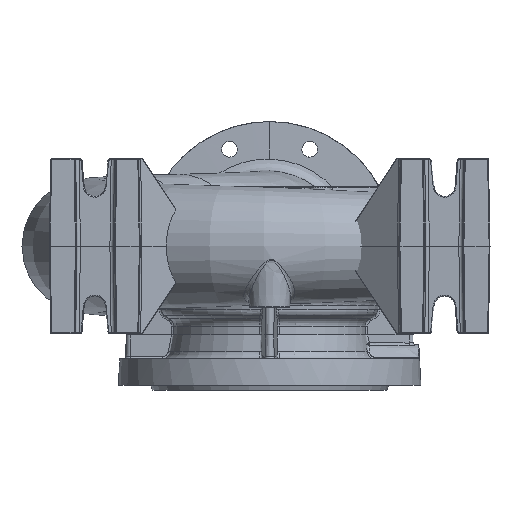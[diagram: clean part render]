
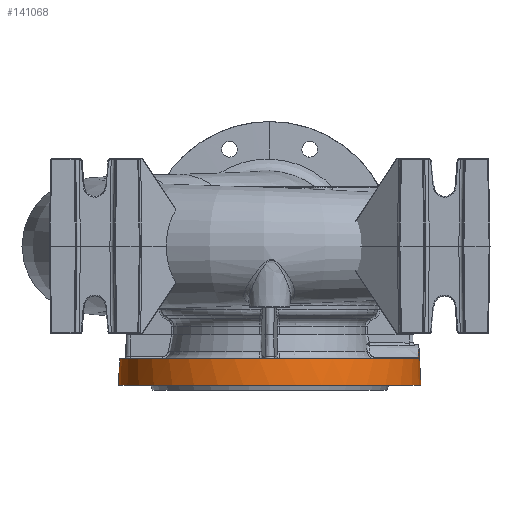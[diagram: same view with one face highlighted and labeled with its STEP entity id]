
A CAD part, front view. The second image highlights one B-rep face of the part: STEP entity #141068.
In plain terms, the highlighted conical face has half-angle 3 degrees and reference radius 173 mm.
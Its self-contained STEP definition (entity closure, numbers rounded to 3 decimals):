
#2172 = DIRECTION ( 'NONE',  ( -1., 0., 0. ) ) ;
#7685 = CARTESIAN_POINT ( 'NONE',  ( 170.159, -16.729, -120.411 ) ) ;
#8156 = EDGE_CURVE ( 'NONE', #113004, #43949, #48370, .T. ) ;
#8166 = CARTESIAN_POINT ( 'NONE',  ( 170.549, -4.42, -113.262 ) ) ;
#9542 = ORIENTED_EDGE ( 'NONE', *, *, #51519, .T. ) ;
#10401 = CARTESIAN_POINT ( 'NONE',  ( 170.028, -21.573, -128.295 ) ) ;
#10824 = ORIENTED_EDGE ( 'NONE', *, *, #38536, .T. ) ;
#11872 = DIRECTION ( 'NONE',  ( 0., 0., 1. ) ) ;
#15145 = LINE ( 'NONE', #134274, #111073 ) ;
#15787 = VERTEX_POINT ( 'NONE', #74379 ) ;
#18814 = CARTESIAN_POINT ( 'NONE',  ( 170.071, -20.706, -127.072 ) ) ;
#19308 = CARTESIAN_POINT ( 'NONE',  ( 170.237, -14.763, -118.456 ) ) ;
#19573 = EDGE_LOOP ( 'NONE', ( #74166, #48338, #32653, #118443, #9542, #10824 ) ) ;
#19809 = CARTESIAN_POINT ( 'NONE',  ( 170.581, -1.121, -112.846 ) ) ;
#21182 = AXIS2_PLACEMENT_3D ( 'NONE', #81183, #11872, #92824 ) ;
#22019 = CARTESIAN_POINT ( 'NONE',  ( 169.995, -21.94, -128.56 ) ) ;
#23035 = LINE ( 'NONE', #74902, #138908 ) ;
#27688 = EDGE_CURVE ( 'NONE', #94954, #43949, #63210, .T. ) ;
#30280 = EDGE_CURVE ( 'NONE', #94954, #15787, #117758, .T. ) ;
#30936 = CARTESIAN_POINT ( 'NONE',  ( 170.288, -13.47, -117.389 ) ) ;
#32653 = ORIENTED_EDGE ( 'NONE', *, *, #27688, .T. ) ;
#33641 = CARTESIAN_POINT ( 'NONE',  ( 169.953, -22.344, -128.767 ) ) ;
#38232 = VERTEX_POINT ( 'NONE', #89820 ) ;
#38414 = DIRECTION ( 'NONE',  ( 0., 0., 1. ) ) ;
#38536 = EDGE_CURVE ( 'NONE', #38232, #146342, #62534, .T. ) ;
#42532 = CARTESIAN_POINT ( 'NONE',  ( 170.357, -11.64, -116.108 ) ) ;
#43949 = VERTEX_POINT ( 'NONE', #69278 ) ;
#45276 = CARTESIAN_POINT ( 'NONE',  ( 169.904, -22.771, -128.91 ) ) ;
#48205 = CARTESIAN_POINT ( 'NONE',  ( 0., 0., -159. ) ) ;
#48338 = ORIENTED_EDGE ( 'NONE', *, *, #30280, .F. ) ;
#48370 = CIRCLE ( 'NONE', #104134, 171.428 ) ;
#51519 = EDGE_CURVE ( 'NONE', #113004, #38232, #15145, .T. ) ;
#53283 = DIRECTION ( 'NONE',  ( -0.052, 0., -0.999 ) ) ;
#53681 = CARTESIAN_POINT ( 'NONE',  ( 170.068, -19.837, -125.033 ) ) ;
#54183 = CARTESIAN_POINT ( 'NONE',  ( 170.438, -9.184, -114.826 ) ) ;
#56917 = CARTESIAN_POINT ( 'NONE',  ( 169.848, -23.218, -128.989 ) ) ;
#62534 = CIRCLE ( 'NONE', #21182, 173. ) ;
#63210 = B_SPLINE_CURVE_WITH_KNOTS ( 'NONE', 3,
 ( #148523, #90848, #68047, #149016, #79733, #10401, #91344, #22019, #102970, #33641, #114595, #45276, #126271, #56917, #137901, #68547 ),
 .UNSPECIFIED., .F., .F.,
 ( 4, 2, 2, 2, 2, 2, 2, 4 ),
 ( 0., 0.001, 0.001, 0.002, 0.002, 0.003, 0.003, 0.004 ),
 .UNSPECIFIED. ) ;
#65306 = CARTESIAN_POINT ( 'NONE',  ( 170.092, -18.717, -123.102 ) ) ;
#65807 = CARTESIAN_POINT ( 'NONE',  ( 170.482, -7.639, -114.193 ) ) ;
#68047 = CARTESIAN_POINT ( 'NONE',  ( 170.068, -20.965, -127.62 ) ) ;
#68547 = CARTESIAN_POINT ( 'NONE',  ( 169.807, -23.52, -129. ) ) ;
#69278 = CARTESIAN_POINT ( 'NONE',  ( 169.807, -23.52, -129. ) ) ;
#70547 = CONICAL_SURFACE ( 'NONE', #136556, 173., 0.052 ) ;
#74166 = ORIENTED_EDGE ( 'NONE', *, *, #112027, .F. ) ;
#74379 = CARTESIAN_POINT ( 'NONE',  ( 170.581, 0., -112.846 ) ) ;
#74902 = CARTESIAN_POINT ( 'NONE',  ( 173., 0., -159. ) ) ;
#76991 = CARTESIAN_POINT ( 'NONE',  ( 170.122, -17.762, -121.72 ) ) ;
#77489 = CARTESIAN_POINT ( 'NONE',  ( 170.531, -5.503, -113.509 ) ) ;
#77729 = CARTESIAN_POINT ( 'NONE',  ( -171.428, 0., -129. ) ) ;
#79733 = CARTESIAN_POINT ( 'NONE',  ( 170.045, -21.352, -128.09 ) ) ;
#81183 = CARTESIAN_POINT ( 'NONE',  ( 0., 0., -159. ) ) ;
#82620 = DIRECTION ( 'NONE',  ( 0., 0., -1. ) ) ;
#87130 = CARTESIAN_POINT ( 'NONE',  ( 170.064, -20.31, -126.036 ) ) ;
#88633 = CARTESIAN_POINT ( 'NONE',  ( 170.188, -15.98, -119.595 ) ) ;
#89127 = CARTESIAN_POINT ( 'NONE',  ( 170.575, -2.229, -112.93 ) ) ;
#89820 = CARTESIAN_POINT ( 'NONE',  ( -173., 0., -159. ) ) ;
#90848 = CARTESIAN_POINT ( 'NONE',  ( 170.073, -20.816, -127.358 ) ) ;
#91344 = CARTESIAN_POINT ( 'NONE',  ( 170.018, -21.69, -128.389 ) ) ;
#92824 = DIRECTION ( 'NONE',  ( 1., 0., 0. ) ) ;
#94954 = VERTEX_POINT ( 'NONE', #98188 ) ;
#98188 = CARTESIAN_POINT ( 'NONE',  ( 170.071, -20.706, -127.072 ) ) ;
#100264 = CARTESIAN_POINT ( 'NONE',  ( 170.254, -14.343, -118.091 ) ) ;
#100758 = CARTESIAN_POINT ( 'NONE',  ( 170.581, 0., -112.846 ) ) ;
#102970 = CARTESIAN_POINT ( 'NONE',  ( 169.982, -22.073, -128.636 ) ) ;
#104134 = AXIS2_PLACEMENT_3D ( 'NONE', #107740, #38414, #119390 ) ;
#104970 = FACE_OUTER_BOUND ( 'NONE', #19573, .T. ) ;
#107740 = CARTESIAN_POINT ( 'NONE',  ( 0., 0., -129. ) ) ;
#111073 = VECTOR ( 'NONE', #53283, 1000. ) ;
#111873 = CARTESIAN_POINT ( 'NONE',  ( 170.305, -13.018, -117.054 ) ) ;
#112027 = EDGE_CURVE ( 'NONE', #15787, #146342, #23035, .T. ) ;
#113004 = VERTEX_POINT ( 'NONE', #77729 ) ;
#114595 = CARTESIAN_POINT ( 'NONE',  ( 169.938, -22.484, -128.821 ) ) ;
#117758 = B_SPLINE_CURVE_WITH_KNOTS ( 'NONE', 3,
 ( #18814, #87130, #53681, #134678, #65306, #146310, #76991, #7685, #88633, #19308, #100264, #30936, #111873, #42532, #123534, #54183, #135172, #65807, #146806, #77489, #8166, #89127, #19809, #100758 ),
 .UNSPECIFIED., .F., .F.,
 ( 4, 2, 2, 2, 2, 2, 2, 2, 2, 2, 2, 4 ),
 ( 0.025, 0.028, 0.03, 0.032, 0.035, 0.037, 0.038, 0.042, 0.043, 0.045, 0.048, 0.052 ),
 .UNSPECIFIED. ) ;
#118443 = ORIENTED_EDGE ( 'NONE', *, *, #8156, .F. ) ;
#119390 = DIRECTION ( 'NONE',  ( 1., 0., 0. ) ) ;
#119712 = CARTESIAN_POINT ( 'NONE',  ( 173., 0., -159. ) ) ;
#123534 = CARTESIAN_POINT ( 'NONE',  ( 170.391, -10.681, -115.551 ) ) ;
#126271 = CARTESIAN_POINT ( 'NONE',  ( 169.886, -22.919, -128.944 ) ) ;
#134274 = CARTESIAN_POINT ( 'NONE',  ( -173., 0., -159. ) ) ;
#134678 = CARTESIAN_POINT ( 'NONE',  ( 170.085, -19.012, -123.579 ) ) ;
#135172 = CARTESIAN_POINT ( 'NONE',  ( 170.453, -8.676, -114.603 ) ) ;
#136556 = AXIS2_PLACEMENT_3D ( 'NONE', #48205, #82620, #2172 ) ;
#137901 = CARTESIAN_POINT ( 'NONE',  ( 169.828, -23.369, -129. ) ) ;
#138908 = VECTOR ( 'NONE', #144238, 1000. ) ;
#141068 = ADVANCED_FACE ( 'NONE', ( #104970 ), #70547, .T. ) ;
#144238 = DIRECTION ( 'NONE',  ( 0.052, 0., -0.999 ) ) ;
#146310 = CARTESIAN_POINT ( 'NONE',  ( 170.111, -18.091, -122.171 ) ) ;
#146342 = VERTEX_POINT ( 'NONE', #119712 ) ;
#146806 = CARTESIAN_POINT ( 'NONE',  ( 170.495, -7.108, -114.006 ) ) ;
#148523 = CARTESIAN_POINT ( 'NONE',  ( 170.071, -20.706, -127.072 ) ) ;
#149016 = CARTESIAN_POINT ( 'NONE',  ( 170.052, -21.248, -127.977 ) ) ;
